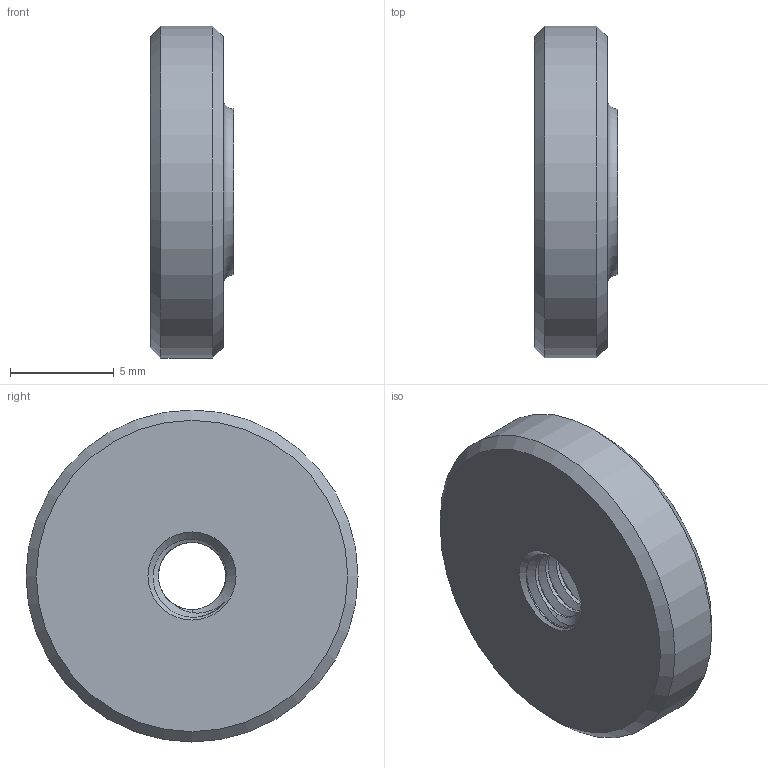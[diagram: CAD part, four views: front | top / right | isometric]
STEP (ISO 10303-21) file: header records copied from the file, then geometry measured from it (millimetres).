
FILE_DESCRIPTION(('STEP AP203'), '1');
FILE_NAME('À00083.104', '2025-03-17T10:12:29', ('1'), (''), 'C3D Converter', 'C3D Toolkit', '');
FILE_SCHEMA(('CONFIG_CONTROL_DESIGN'));
Length unit declared in the file: millimetre
Products named in the file (1): А00083.104
Bounding box: 4 x 16 x 16 mm (x, y, z)
Volume: 675.9 mm3; surface area: 601.5 mm2
Topology: 1 solids, 1 shells, 17 faces, 41 edges, 30 vertices
Faces by surface type: cone 5, cylinder 5, bspline 3, plane 3, torus 1
Full cylindrical faces by diameter (mm): 16 x1
Entity records: 5079 total; most frequent: CARTESIAN_POINT 4593, ORIENTED_EDGE 62, DIRECTION 51, EDGE_CURVE 31, EDGE_LOOP 25, AXIS2_PLACEMENT_3D 24, VERTEX_POINT 24, B_SPLINE_CURVE_WITH_KNOTS 19
